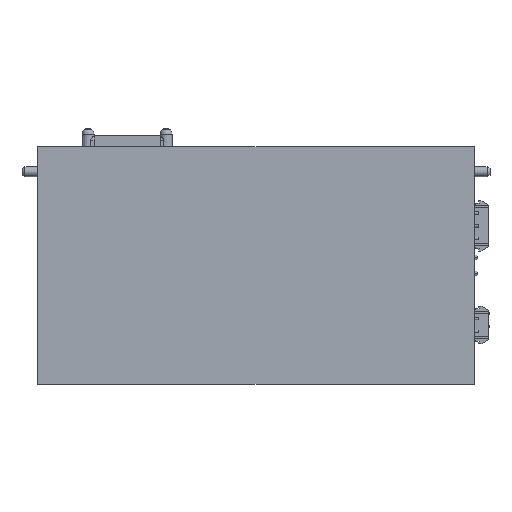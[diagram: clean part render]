
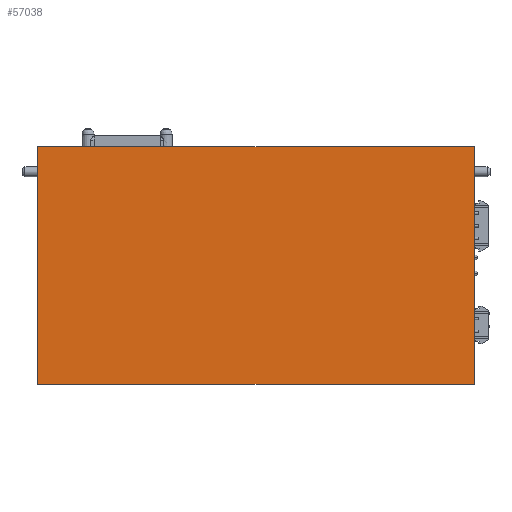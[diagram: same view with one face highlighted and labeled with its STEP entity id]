
A CAD part, front view. The second image highlights one B-rep face of the part: STEP entity #57038.
In plain terms, the highlighted planar face has unit normal (0, -1, 0).
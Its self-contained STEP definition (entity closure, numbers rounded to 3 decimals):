
#174 = CARTESIAN_POINT ( 'NONE',  ( -220., 0., 0. ) ) ;
#182 = DIRECTION ( 'NONE',  ( 0., 0., 1. ) ) ;
#197 = CARTESIAN_POINT ( 'NONE',  ( 0., 0., -120. ) ) ;
#198 = DIRECTION ( 'NONE',  ( -1., 0., 0. ) ) ;
#203 = CARTESIAN_POINT ( 'NONE',  ( 0., 0., 0. ) ) ;
#204 = DIRECTION ( 'NONE',  ( 1., 0., 0. ) ) ;
#14188 = EDGE_CURVE ( 'NONE', #49381, #49386, #50873, .T. ) ;
#16703 = EDGE_LOOP ( 'NONE', ( #31472, #31473, #31474, #31475 ) ) ;
#19552 = CARTESIAN_POINT ( 'NONE',  ( 0., 0., 0. ) ) ;
#19562 = CARTESIAN_POINT ( 'NONE',  ( 0., 0., -120. ) ) ;
#28791 = VERTEX_POINT ( 'NONE', #61030 ) ;
#28793 = VERTEX_POINT ( 'NONE', #61031 ) ;
#30085 = EDGE_CURVE ( 'NONE', #28791, #28793, #58960, .T. ) ;
#30100 = EDGE_CURVE ( 'NONE', #49386, #28791, #58967, .T. ) ;
#30106 = EDGE_CURVE ( 'NONE', #28793, #49381, #58971, .T. ) ;
#31472 = ORIENTED_EDGE ( 'NONE', *, *, #14188, .F. ) ;
#31473 = ORIENTED_EDGE ( 'NONE', *, *, #30106, .F. ) ;
#31474 = ORIENTED_EDGE ( 'NONE', *, *, #30085, .F. ) ;
#31475 = ORIENTED_EDGE ( 'NONE', *, *, #30100, .F. ) ;
#33101 = FACE_OUTER_BOUND ( 'NONE', #16703, .T. ) ;
#33653 = AXIS2_PLACEMENT_3D ( 'NONE', #35552, #35571, #35572 ) ;
#35547 = PLANE ( 'NONE',  #33653 ) ;
#35552 = CARTESIAN_POINT ( 'NONE',  ( 0., 0., -120. ) ) ;
#35571 = DIRECTION ( 'NONE',  ( 0., 1., 0. ) ) ;
#35572 = DIRECTION ( 'NONE',  ( 0., 0., 1. ) ) ;
#49381 = VERTEX_POINT ( 'NONE', #19552 ) ;
#49386 = VERTEX_POINT ( 'NONE', #19562 ) ;
#50873 = LINE ( 'NONE', #52884, #50874 ) ;
#50874 = VECTOR ( 'NONE', #52885, 1000. ) ;
#52884 = CARTESIAN_POINT ( 'NONE',  ( 0., 0., 0. ) ) ;
#52885 = DIRECTION ( 'NONE',  ( 0., 0., -1. ) ) ;
#57038 = ADVANCED_FACE ( 'NONE', ( #33101 ), #35547, .F. ) ;
#58960 = LINE ( 'NONE', #174, #58962 ) ;
#58962 = VECTOR ( 'NONE', #182, 1000. ) ;
#58963 = VECTOR ( 'NONE', #198, 1000. ) ;
#58967 = LINE ( 'NONE', #197, #58963 ) ;
#58971 = LINE ( 'NONE', #203, #58975 ) ;
#58975 = VECTOR ( 'NONE', #204, 1000. ) ;
#61030 = CARTESIAN_POINT ( 'NONE',  ( -220., 0., -120. ) ) ;
#61031 = CARTESIAN_POINT ( 'NONE',  ( -220., 0., 0. ) ) ;
